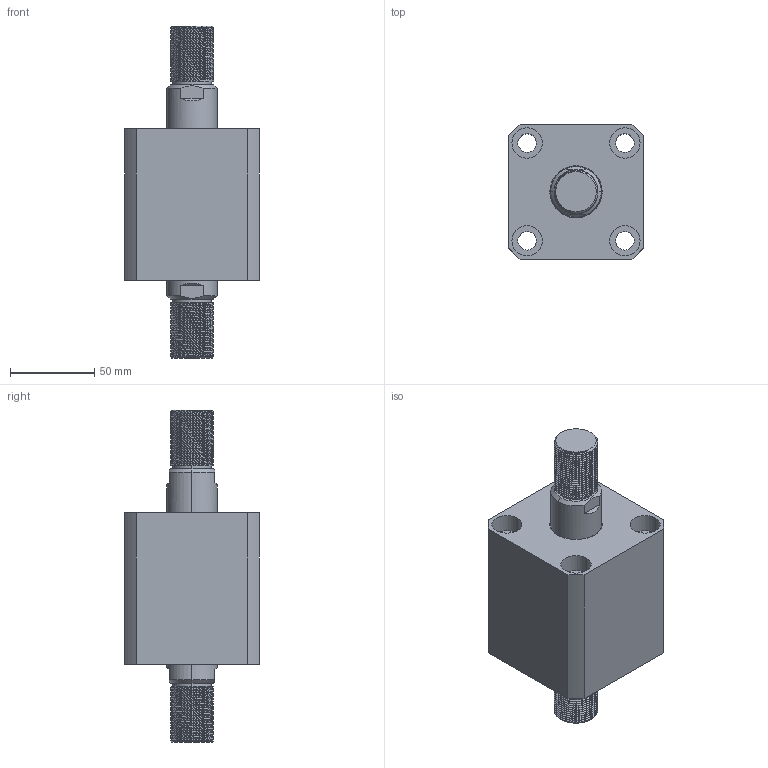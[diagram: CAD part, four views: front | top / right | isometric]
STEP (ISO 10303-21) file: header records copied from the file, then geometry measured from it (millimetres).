
FILE_DESCRIPTION (( 'STEP AP203' ), '1' );
FILE_NAME ('CHTB-SW50-15W.STEP', '2018-05-19T09:27:16', ( '' ), ( '' ), 'SwSTEP 2.0', 'SolidWorks 2015', '' );
FILE_SCHEMA (( 'CONFIG_CONTROL_DESIGN' ));
Length unit declared in the file: millimetre
Products named in the file (4): ヶ裔; 掛极SW50-15W; 活塞杆SW50-15W; CHTB-SW50-15W
Assembly tree (3 placements, depth 2):
  CHTB-SW50-15W
    掛极SW50-15W
    活塞杆SW50-15W
    ヶ裔
Bounding box: 80 x 80 x 197 mm (x, y, z)
Volume: 552941.2 mm3; surface area: 109881.1 mm2
Topology: 3 solids, 3 shells, 316 faces, 798 edges, 516 vertices
Faces by surface type: cylinder 202, plane 52, cone 30, torus 24, bspline 8
Entity records: 17406 total; most frequent: CARTESIAN_POINT 10039, ORIENTED_EDGE 1588, DIRECTION 1365, EDGE_CURVE 794, AXIS2_PLACEMENT_3D 551, VERTEX_POINT 516, EDGE_LOOP 364, ADVANCED_FACE 316
